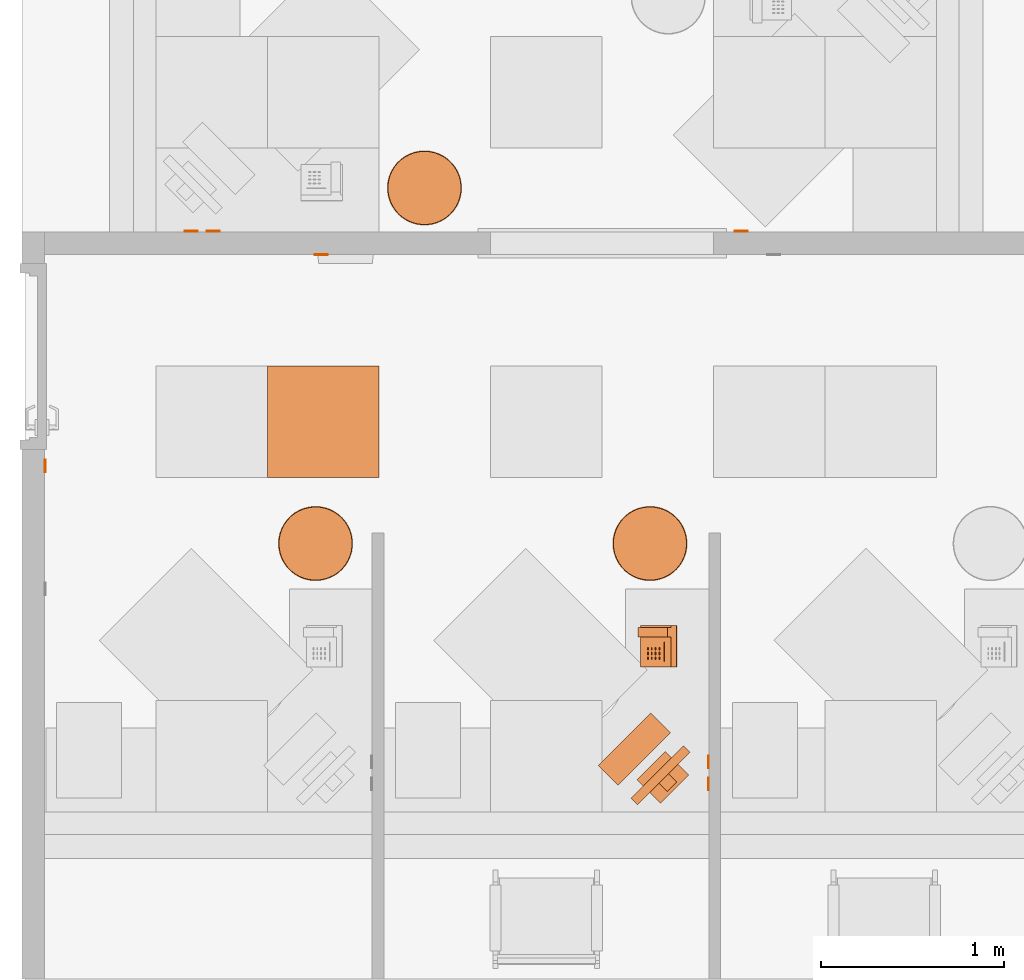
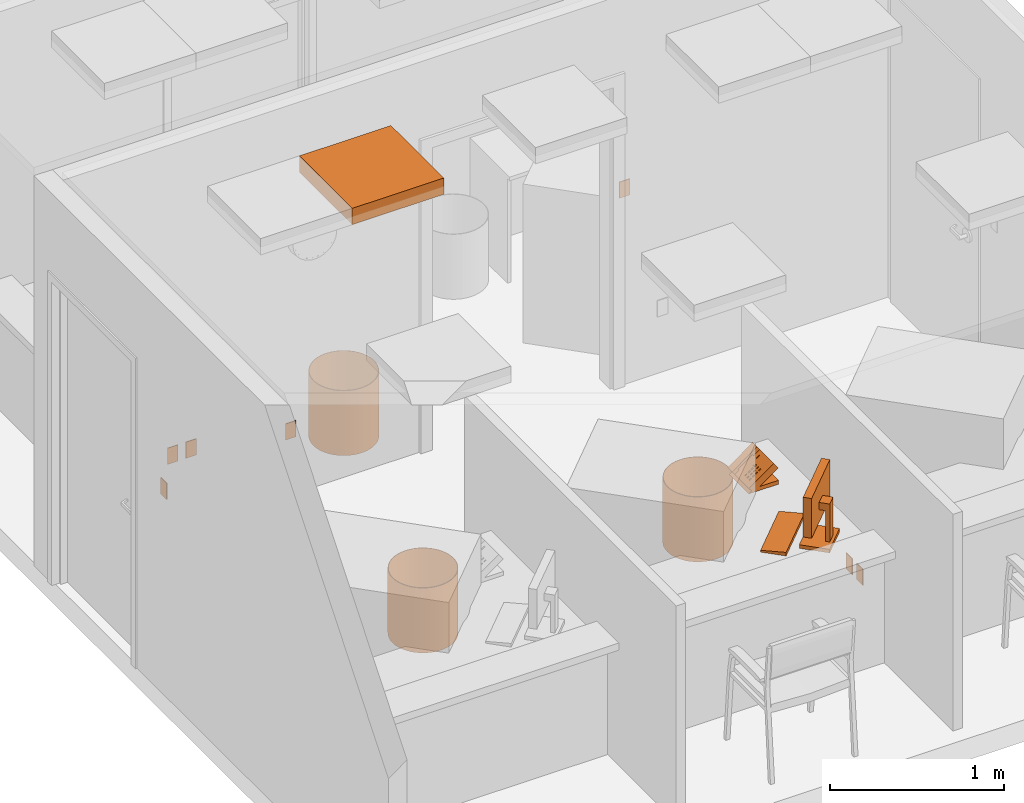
# One storey, part 14 of 20: 13 proxies.
"""IFC2X3 building model written with IfcOpenShell, lengths in feet."""

from ifc_helpers import new_model, entity, si_unit, converted_unit, derived_unit, direction, frame, frame_2d, origin, origin_2d_with_axis, place, context, subcontext, project, spatial, rectangle, circle, hollow_circle, extrude, faceted_brep, source, transform, mapped, type_object, type_shapes, element, save


model = new_model("IFC2X3")

# Units and contexts
model_context = context("Model", 3, precision=0.0001, world=origin(), true_north=direction((6.12303176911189e-17, 1.0)))
body_context = subcontext(model_context, "Body", "Model", "MODEL_VIEW")
ifc_project = project(units=[converted_unit("LENGTHUNIT", "FOOT", entity("IfcRatioMeasure", 0.3048), si_unit("LENGTHUNIT", "METRE"), dimensions=[1, 0, 0, 0, 0, 0, 0]), converted_unit("AREAUNIT", "SQUARE FOOT", entity("IfcRatioMeasure", 0.09290304), si_unit("AREAUNIT", "SQUARE_METRE"), dimensions=[2, 0, 0, 0, 0, 0, 0]), converted_unit("VOLUMEUNIT", "CUBIC FOOT", entity("IfcRatioMeasure", 0.028316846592), si_unit("VOLUMEUNIT", "CUBIC_METRE"), dimensions=[3, 0, 0, 0, 0, 0, 0]), converted_unit("PLANEANGLEUNIT", "DEGREE", entity("IfcRatioMeasure", 0.0174532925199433), si_unit("PLANEANGLEUNIT", "RADIAN"), dimensions=[0, 0, 0, 0, 0, 0, 0]), si_unit("MASSUNIT", "GRAM", prefix="KILO"), derived_unit("MASSDENSITYUNIT", [(si_unit("MASSUNIT", "GRAM", prefix="KILO"), 1), (si_unit("LENGTHUNIT", "METRE"), -3)]), si_unit("TIMEUNIT", "SECOND"), si_unit("FREQUENCYUNIT", "HERTZ"), si_unit("THERMODYNAMICTEMPERATUREUNIT", "DEGREE_CELSIUS"), derived_unit("THERMALTRANSMITTANCEUNIT", [(si_unit("MASSUNIT", "GRAM", prefix="KILO"), 1), (si_unit("THERMODYNAMICTEMPERATUREUNIT", "KELVIN"), -1), (si_unit("TIMEUNIT", "SECOND"), -3)]), derived_unit("VOLUMETRICFLOWRATEUNIT", [(si_unit("LENGTHUNIT", "METRE"), 3), (si_unit("TIMEUNIT", "SECOND"), -1)]), si_unit("ELECTRICCURRENTUNIT", "AMPERE"), si_unit("ELECTRICVOLTAGEUNIT", "VOLT"), si_unit("POWERUNIT", "WATT"), si_unit("FORCEUNIT", "NEWTON"), si_unit("ILLUMINANCEUNIT", "LUX"), si_unit("LUMINOUSFLUXUNIT", "LUMEN"), si_unit("LUMINOUSINTENSITYUNIT", "CANDELA"), derived_unit("USERDEFINED", [(si_unit("MASSUNIT", "GRAM", prefix="KILO"), -1), (si_unit("LENGTHUNIT", "METRE"), -2), (si_unit("TIMEUNIT", "SECOND"), 3), (si_unit("LUMINOUSFLUXUNIT", "LUMEN"), 1)]), derived_unit("LINEARVELOCITYUNIT", [(si_unit("LENGTHUNIT", "METRE"), 1), (si_unit("TIMEUNIT", "SECOND"), -1)]), si_unit("PRESSUREUNIT", "PASCAL"), derived_unit("USERDEFINED", [(si_unit("LENGTHUNIT", "METRE"), -2), (si_unit("MASSUNIT", "GRAM", prefix="KILO"), 1), (si_unit("TIMEUNIT", "SECOND"), -2)])], contexts=[model_context])

# Site, building, storey, space
site_placement = place(None, origin())
site = spatial("IfcSite", under=ifc_project, at=site_placement, Name="Default", CompositionType="ELEMENT")
building_placement = place(site_placement, origin())
building = spatial("IfcBuilding", under=site, at=building_placement, Name="OUTPATIENT / PACT CLINIC (Ch. 265)", CompositionType="ELEMENT")
storey_placement = place(building_placement, origin())
storey = spatial("IfcBuildingStorey", under=building, at=storey_placement, Name="DATUM", CompositionType="ELEMENT", Elevation=0.0)
space_1_placement = place(storey_placement, origin())
space_1 = spatial("IfcSpace", under=storey, at=space_1_placement, Name="RCP03", CompositionType="ELEMENT", InteriorOrExteriorSpace="INTERNAL")

# Proxies
building_element_proxy_type_1 = type_object("IfcBuildingElementProxyType", Name="A1015 Telephone_Desk Multi-Line", PredefinedType="NOTDEFINED")
shared_shape_1 = source(origin(), body_context, "Body", "Brep", [
    faceted_brep([(0.700520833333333, 0.261320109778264, 0.451787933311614), (0.700520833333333, 0.572560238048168, 0.223329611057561), (0.700520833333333, 0.538332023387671, 0.176698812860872), (0.700520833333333, 0.629478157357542, 0.109798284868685), (0.700520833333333, 0.699689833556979, 0.205455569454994), (0.700520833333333, 0.163563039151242, 0.598968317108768), (0.700520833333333, 0.0904130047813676, 0.494499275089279), (0.700520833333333, 0.225161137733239, 0.400147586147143), (0.532645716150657, 0.261320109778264, 0.451787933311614), (0.532645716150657, 0.225161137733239, 0.400147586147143), (0.532645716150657, 0.0904130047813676, 0.494499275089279), (0.532645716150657, 0.163563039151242, 0.598968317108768), (0.532645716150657, 0.699689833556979, 0.205455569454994), (0.532645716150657, 0.629478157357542, 0.109798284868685), (0.532645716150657, 0.538332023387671, 0.176698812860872), (0.532645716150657, 0.572560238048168, 0.223329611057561)], [[[0, 1, 2, 3, 4, 5, 6, 7]], [[8, 9, 10, 11, 12, 13, 14, 15]], [[1, 0, 8, 15]], [[2, 1, 15, 14]], [[3, 2, 14, 13]], [[4, 3, 13, 12]], [[5, 4, 12, 11]], [[6, 5, 11, 10]], [[7, 6, 10, 9]], [[0, 7, 9, 8]]]),
    faceted_brep([(0.297587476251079, 0.457472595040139, 0.295395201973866), (0.344462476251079, 0.457472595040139, 0.295395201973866), (0.344462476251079, 0.49615327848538, 0.268310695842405), (0.297587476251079, 0.49615327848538, 0.268310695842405), (0.297587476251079, 0.442535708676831, 0.274063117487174), (0.297587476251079, 0.481216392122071, 0.246978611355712), (0.344462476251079, 0.481216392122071, 0.246978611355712), (0.344462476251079, 0.442535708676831, 0.274063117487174)], [[[0, 1, 2, 3]], [[4, 5, 6, 7]], [[1, 0, 4, 7]], [[2, 1, 7, 6]], [[3, 2, 6, 5]], [[0, 3, 5, 4]]]),
    faceted_brep([(0.29758747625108, 0.525735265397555, 0.247597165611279), (0.34446247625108, 0.525735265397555, 0.247597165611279), (0.34446247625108, 0.564415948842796, 0.220512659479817), (0.29758747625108, 0.564415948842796, 0.220512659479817), (0.29758747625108, 0.510798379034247, 0.226265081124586), (0.29758747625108, 0.549479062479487, 0.199180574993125), (0.34446247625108, 0.549479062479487, 0.199180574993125), (0.34446247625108, 0.510798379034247, 0.226265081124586)], [[[0, 1, 2, 3]], [[4, 5, 6, 7]], [[1, 0, 4, 7]], [[2, 1, 7, 6]], [[3, 2, 6, 5]], [[0, 3, 5, 4]]]),
    faceted_brep([(0.214254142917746, 0.525735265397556, 0.247597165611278), (0.261129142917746, 0.525735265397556, 0.247597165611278), (0.261129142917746, 0.564415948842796, 0.220512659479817), (0.214254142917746, 0.564415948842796, 0.220512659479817), (0.214254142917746, 0.510798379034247, 0.226265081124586), (0.214254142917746, 0.549479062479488, 0.199180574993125), (0.261129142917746, 0.549479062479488, 0.199180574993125), (0.261129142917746, 0.510798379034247, 0.226265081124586)], [[[0, 1, 2, 3]], [[4, 5, 6, 7]], [[1, 0, 4, 7]], [[2, 1, 7, 6]], [[3, 2, 6, 5]], [[0, 3, 5, 4]]]),
    faceted_brep([(0.130920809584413, 0.525735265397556, 0.247597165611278), (0.177795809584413, 0.525735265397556, 0.247597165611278), (0.177795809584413, 0.564415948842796, 0.220512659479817), (0.130920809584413, 0.564415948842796, 0.220512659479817), (0.130920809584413, 0.510798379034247, 0.226265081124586), (0.130920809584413, 0.549479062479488, 0.199180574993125), (0.177795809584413, 0.549479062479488, 0.199180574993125), (0.177795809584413, 0.510798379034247, 0.226265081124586)], [[[0, 1, 2, 3]], [[4, 5, 6, 7]], [[1, 0, 4, 7]], [[2, 1, 7, 6]], [[3, 2, 6, 5]], [[0, 3, 5, 4]]]),
    faceted_brep([(0.130920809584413, 0.45747259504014, 0.295395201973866), (0.177795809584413, 0.45747259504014, 0.295395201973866), (0.177795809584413, 0.496153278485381, 0.268310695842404), (0.130920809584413, 0.496153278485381, 0.268310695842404), (0.130920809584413, 0.442535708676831, 0.274063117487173), (0.130920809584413, 0.481216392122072, 0.246978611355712), (0.177795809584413, 0.481216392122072, 0.246978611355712), (0.177795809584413, 0.442535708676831, 0.274063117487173)], [[[0, 1, 2, 3]], [[4, 5, 6, 7]], [[1, 0, 4, 7]], [[2, 1, 7, 6]], [[3, 2, 6, 5]], [[0, 3, 5, 4]]]),
    faceted_brep([(0.214254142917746, 0.389209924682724, 0.343193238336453), (0.261129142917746, 0.389209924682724, 0.343193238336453), (0.261129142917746, 0.427890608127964, 0.316108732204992), (0.214254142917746, 0.427890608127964, 0.316108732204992), (0.214254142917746, 0.374273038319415, 0.321861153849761), (0.214254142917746, 0.412953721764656, 0.2947766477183), (0.261129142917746, 0.412953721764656, 0.2947766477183), (0.261129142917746, 0.374273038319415, 0.321861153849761)], [[[0, 1, 2, 3]], [[4, 5, 6, 7]], [[1, 0, 4, 7]], [[2, 1, 7, 6]], [[3, 2, 6, 5]], [[0, 3, 5, 4]]]),
    faceted_brep([(0.130920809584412, 0.389209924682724, 0.343193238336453), (0.177795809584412, 0.389209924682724, 0.343193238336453), (0.177795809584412, 0.427890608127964, 0.316108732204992), (0.130920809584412, 0.427890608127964, 0.316108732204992), (0.130920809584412, 0.374273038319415, 0.321861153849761), (0.130920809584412, 0.412953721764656, 0.2947766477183), (0.177795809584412, 0.412953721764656, 0.2947766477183), (0.177795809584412, 0.374273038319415, 0.321861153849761)], [[[0, 1, 2, 3]], [[4, 5, 6, 7]], [[1, 0, 4, 7]], [[2, 1, 7, 6]], [[3, 2, 6, 5]], [[0, 3, 5, 4]]]),
    faceted_brep([(0.214254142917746, 0.457472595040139, 0.295395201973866), (0.261129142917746, 0.457472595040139, 0.295395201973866), (0.261129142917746, 0.49615327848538, 0.268310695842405), (0.214254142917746, 0.49615327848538, 0.268310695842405), (0.214254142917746, 0.442535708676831, 0.274063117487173), (0.214254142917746, 0.481216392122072, 0.246978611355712), (0.261129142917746, 0.481216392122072, 0.246978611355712), (0.261129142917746, 0.442535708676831, 0.274063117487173)], [[[0, 1, 2, 3]], [[4, 5, 6, 7]], [[1, 0, 4, 7]], [[2, 1, 7, 6]], [[3, 2, 6, 5]], [[0, 3, 5, 4]]]),
    faceted_brep([(0.297587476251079, 0.389209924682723, 0.343193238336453), (0.344462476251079, 0.389209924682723, 0.343193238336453), (0.344462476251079, 0.427890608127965, 0.316108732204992), (0.297587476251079, 0.427890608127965, 0.316108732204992), (0.297587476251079, 0.374273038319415, 0.321861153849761), (0.297587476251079, 0.412953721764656, 0.294776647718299), (0.344462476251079, 0.412953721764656, 0.294776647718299), (0.344462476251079, 0.374273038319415, 0.321861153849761)], [[[0, 1, 2, 3]], [[4, 5, 6, 7]], [[1, 0, 4, 7]], [[2, 1, 7, 6]], [[3, 2, 6, 5]], [[0, 3, 5, 4]]]),
    faceted_brep([(0.130920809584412, 0.320947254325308, 0.39099127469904), (0.177795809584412, 0.320947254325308, 0.39099127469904), (0.177795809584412, 0.359627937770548, 0.363906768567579), (0.130920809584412, 0.359627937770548, 0.363906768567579), (0.130920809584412, 0.306010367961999, 0.369659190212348), (0.130920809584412, 0.34469105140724, 0.342574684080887), (0.177795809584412, 0.34469105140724, 0.342574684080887), (0.177795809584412, 0.306010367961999, 0.369659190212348)], [[[0, 1, 2, 3]], [[4, 5, 6, 7]], [[1, 0, 4, 7]], [[2, 1, 7, 6]], [[3, 2, 6, 5]], [[0, 3, 5, 4]]]),
    faceted_brep([(0.214254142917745, 0.320947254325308, 0.39099127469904), (0.261129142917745, 0.320947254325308, 0.39099127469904), (0.261129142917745, 0.359627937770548, 0.363906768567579), (0.214254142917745, 0.359627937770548, 0.363906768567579), (0.214254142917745, 0.306010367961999, 0.369659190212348), (0.214254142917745, 0.34469105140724, 0.342574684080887), (0.261129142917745, 0.34469105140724, 0.342574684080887), (0.261129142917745, 0.306010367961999, 0.369659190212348)], [[[0, 1, 2, 3]], [[4, 5, 6, 7]], [[1, 0, 4, 7]], [[2, 1, 7, 6]], [[3, 2, 6, 5]], [[0, 3, 5, 4]]]),
    faceted_brep([(0.297587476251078, 0.320947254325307, 0.390991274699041), (0.344462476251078, 0.320947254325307, 0.390991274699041), (0.344462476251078, 0.359627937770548, 0.363906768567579), (0.297587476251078, 0.359627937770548, 0.363906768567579), (0.297587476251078, 0.306010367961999, 0.369659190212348), (0.297587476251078, 0.34469105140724, 0.342574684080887), (0.344462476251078, 0.34469105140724, 0.342574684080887), (0.344462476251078, 0.306010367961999, 0.369659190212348)], [[[0, 1, 2, 3]], [[4, 5, 6, 7]], [[1, 0, 4, 7]], [[2, 1, 7, 6]], [[3, 2, 6, 5]], [[0, 3, 5, 4]]]),
    faceted_brep([(0.739583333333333, 0.584951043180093, 0.0535656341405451), (0.739583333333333, 0.648788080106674, 0.129643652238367), (0.739583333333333, 0.102686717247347, 0.512027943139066), (0.739583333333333, 0.00709064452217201, 0.375502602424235), (0.739583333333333, 0.416666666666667, 0.0887143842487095), (0.739583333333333, 0.0, 0.0887143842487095), (0.739583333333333, 0.0, 0.0), (0.739583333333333, 0.648788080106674, 0.0), (0.0, 0.416666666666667, 0.0887143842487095), (0.0, 0.00709064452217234, 0.375502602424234), (0.0, 0.102686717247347, 0.512027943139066), (0.0, 0.648788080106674, 0.129643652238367), (0.0, 0.584951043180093, 0.0535656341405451), (0.0, 0.648788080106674, 0.0), (0.0, 0.0, 0.0), (0.0, 0.0, 0.0887143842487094), (0.532645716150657, 0.648788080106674, 0.129643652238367), (0.532645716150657, 0.631984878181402, 0.109618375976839), (0.699312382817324, 0.631984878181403, 0.10961837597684), (0.699312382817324, 0.648788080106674, 0.129643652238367), (0.699312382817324, 0.597591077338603, 0.165492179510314), (0.688147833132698, 0.205080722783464, 0.44033088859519), (0.68766856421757, 0.582470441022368, 0.176079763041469), (0.676024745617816, 0.567349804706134, 0.186667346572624), (0.67289677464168, 0.217573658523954, 0.431583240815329), (0.657645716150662, 0.230066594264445, 0.422835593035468), (0.65691415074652, 0.558715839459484, 0.192712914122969), (0.637803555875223, 0.550081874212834, 0.198758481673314), (0.636812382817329, 0.234639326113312, 0.41963373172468), (0.615979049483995, 0.239212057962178, 0.416431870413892), (0.61597904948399, 0.550081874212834, 0.198758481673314), (0.594154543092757, 0.550081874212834, 0.198758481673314), (0.595145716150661, 0.234639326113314, 0.419633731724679), (0.574312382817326, 0.230066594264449, 0.422835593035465), (0.441208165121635, 0.234600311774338, 0.419661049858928), (0.575043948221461, 0.558715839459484, 0.192712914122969), (0.555933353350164, 0.567349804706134, 0.186667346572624), (0.542406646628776, 0.58491555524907, 0.174367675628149), (0.532645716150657, 0.597591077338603, 0.165492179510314), (0.0978645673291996, 0.234600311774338, 0.419661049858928), (0.0978645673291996, 0.166337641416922, 0.467459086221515), (0.532645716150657, 0.102686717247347, 0.512027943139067), (0.441208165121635, 0.166337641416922, 0.467459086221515), (0.532645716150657, 0.170949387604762, 0.46422990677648), (0.538227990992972, 0.188015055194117, 0.452280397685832), (0.543810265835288, 0.205080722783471, 0.440330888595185), (0.559061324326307, 0.21757365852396, 0.431583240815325), (0.693730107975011, 0.188015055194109, 0.452280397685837), (0.699312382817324, 0.170949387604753, 0.464229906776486), (0.699312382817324, 0.102686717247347, 0.512027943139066), (0.699312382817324, 0.0877498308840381, 0.490695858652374), (0.532645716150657, 0.0877498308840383, 0.490695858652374), (0.0978645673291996, 0.151400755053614, 0.446127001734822), (0.441208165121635, 0.151400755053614, 0.446127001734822), (0.441208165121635, 0.219663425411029, 0.398328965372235), (0.0978645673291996, 0.219663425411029, 0.398328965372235), (0.597435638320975, 0.222563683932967, 0.396298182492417), (0.580728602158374, 0.215973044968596, 0.400912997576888), (0.564021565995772, 0.209382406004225, 0.40552781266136), (0.55245993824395, 0.197506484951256, 0.413843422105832), (0.540898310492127, 0.185630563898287, 0.422159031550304), (0.536626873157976, 0.170300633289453, 0.432893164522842), (0.532645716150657, 0.156012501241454, 0.442897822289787), (0.699312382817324, 0.156012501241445, 0.442897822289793), (0.695331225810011, 0.170300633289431, 0.432893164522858), (0.691059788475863, 0.18563056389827, 0.422159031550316), (0.679498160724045, 0.197506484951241, 0.413843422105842), (0.667936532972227, 0.209382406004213, 0.405527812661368), (0.651229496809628, 0.215973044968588, 0.400912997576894), (0.634522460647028, 0.222563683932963, 0.39629818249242), (0.615979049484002, 0.222563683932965, 0.396298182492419), (0.532645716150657, 0.582654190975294, 0.144160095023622), (0.54428953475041, 0.56753355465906, 0.154747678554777), (0.555933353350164, 0.552412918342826, 0.165335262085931), (0.575043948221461, 0.543778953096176, 0.171380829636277), (0.594154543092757, 0.535144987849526, 0.177426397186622), (0.61597904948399, 0.535144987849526, 0.177426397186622), (0.637803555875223, 0.535144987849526, 0.177426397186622), (0.65691415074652, 0.543778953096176, 0.171380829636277), (0.676024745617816, 0.552412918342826, 0.165335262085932), (0.689551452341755, 0.569978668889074, 0.153035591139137), (0.699312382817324, 0.582654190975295, 0.144160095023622)], [[[0, 1, 2, 3, 4, 5, 6, 7]], [[8, 9, 10, 11, 12, 13, 14, 15]], [[0, 7, 13, 12]], [[0, 12, 11, 16, 17, 18, 19, 1]], [[1, 19, 20]], [[21, 1, 20]], [[2, 1, 21]], [[21, 20, 22]], [[21, 22, 23]], [[23, 24, 21]], [[23, 25, 24]], [[25, 23, 26]], [[25, 26, 27]], [[27, 28, 25]], [[27, 29, 28]], [[29, 27, 30]], [[29, 30, 31]], [[31, 32, 29]], [[31, 33, 32]], [[34, 33, 31]], [[34, 31, 35]], [[34, 35, 36]], [[34, 36, 37]], [[34, 37, 38]], [[38, 39, 34]], [[39, 38, 11]], [[38, 16, 11]], [[39, 11, 10]], [[10, 40, 39]], [[10, 41, 40]], [[40, 41, 42]], [[42, 41, 43]], [[42, 43, 44]], [[42, 44, 45]], [[34, 45, 46]], [[42, 45, 34]], [[34, 46, 33]], [[2, 21, 47]], [[2, 47, 48]], [[2, 48, 49]], [[2, 49, 50, 51, 41, 10, 9, 3]], [[4, 3, 9, 8]], [[5, 4, 8, 15]], [[6, 5, 15, 14]], [[7, 6, 14, 13]], [[52, 53, 54, 55]], [[56, 57, 58, 59, 60, 61, 62, 51, 50, 63, 64, 65, 66, 67, 68, 69, 70]], [[17, 71, 72, 73, 74, 75, 76, 77, 78, 79, 80, 81, 18]], [[52, 40, 42, 53]], [[54, 53, 42, 34]], [[54, 34, 39, 55]], [[55, 39, 40, 52]], [[50, 49, 48, 63]], [[18, 81, 20, 19]], [[64, 63, 48]], [[56, 29, 32]], [[33, 57, 32]], [[66, 24, 67]], [[64, 47, 65]], [[21, 65, 47]], [[28, 68, 25]], [[65, 21, 66]], [[68, 28, 69]], [[47, 64, 48]], [[56, 32, 57]], [[45, 60, 59]], [[45, 59, 46]], [[56, 70, 69, 29]], [[33, 58, 57]], [[45, 44, 60]], [[43, 62, 61]], [[33, 46, 58]], [[24, 66, 21]], [[58, 46, 59]], [[44, 43, 61]], [[24, 25, 67]], [[29, 69, 28]], [[68, 67, 25]], [[61, 60, 44]], [[62, 43, 41, 51]], [[17, 16, 38, 71]], [[73, 72, 71, 38, 37, 36]], [[20, 81, 80, 79, 23, 22]], [[36, 35, 31, 75, 74, 73]], [[77, 76, 75, 31, 30, 27]], [[27, 26, 23, 79, 78, 77]]]),
])
type_shapes(building_element_proxy_type_1, [shared_shape_1])
proxy_1_placement = place(space_1_placement, frame((67.6056098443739, -862.322290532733, 2.49999999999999), z_axis=(0.0, 0.0, 1.0), x_axis=(0.0, 1.0, 0.0)))
element("IfcBuildingElementProxy", 1, at=proxy_1_placement, inside=space_1, type_object=building_element_proxy_type_1, Name="A1015 - Telephone, Desk, Multiple Line:A1015 Telephone_Desk Multi-Line", ObjectType="A1015 Telephone_Desk Multi-Line", context=body_context, shape_type="MappedRepresentation", body=[
    mapped(shared_shape_1, transform((0.0, 0.0, 0.0), scale=1.0)),
])
building_element_proxy_type_2 = type_object("IfcBuildingElementProxyType", Name="F2000 - Basket, Wastepaper", PredefinedType="NOTDEFINED")
shared_shape_2 = source(origin(), body_context, "Body", "SweptSolid", [
    extrude(circle(Radius=0.666666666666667, at=frame_2d((0.0, -1.07702971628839e-15), x_axis=(1.0, 0.0))), origin(), (0.0, 0.0, 1.0), 0.0104166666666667),
    extrude(hollow_circle(Radius=0.666666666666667, WallThickness=0.0104166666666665, at=frame_2d((0.0, -1.07702971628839e-15), x_axis=(1.0, 0.0))), frame((0.0, 0.0, 0.0104166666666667)), (0.0, 0.0, 1.0), 1.48958333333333),
])
type_shapes(building_element_proxy_type_2, [shared_shape_2])
for number, where, z_axis, x_axis, name in (
    (2, (67.1234884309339, -860.111353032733, 0.0), (0.0, 0.0, 1.0), (-1.0, 0.0, 0.0), "F2000 - Basket, Wastepaper:F2000 - Basket, Wastepaper"),
    (3, (61.1234884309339, -860.111353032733, 0.0), (0.0, 0.0, 1.0), (-1.0, 0.0, 0.0), "F2000 - Basket, Wastepaper:F2000 - Basket, Wastepaper"),
):
    element("IfcBuildingElementProxy", number, at=place(space_1_placement, frame(where, z_axis=z_axis, x_axis=x_axis)), inside=space_1, type_object=building_element_proxy_type_2, Name=name, ObjectType="F2000 - Basket, Wastepaper", context=body_context, shape_type="MappedRepresentation", body=[
        mapped(shared_shape_2, transform((0.0, 0.0, 0.0), scale=1.0)),
    ])

# Space
space_2_placement = place(storey_placement, origin())
space_2 = spatial("IfcSpace", under=storey, at=space_2_placement, CompositionType="ELEMENT", InteriorOrExteriorSpace="INTERNAL")

# Proxies
proxy_2_placement = place(space_2_placement, frame((63.0775997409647, -853.73213100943, 0.0), z_axis=(0.0, 0.0, 1.0), x_axis=(0.0, 1.0, 0.0)))
element("IfcBuildingElementProxy", 4, at=proxy_2_placement, inside=space_2, type_object=building_element_proxy_type_2, Name="F2000 - Basket, Wastepaper:F2000 - Basket, Wastepaper", ObjectType="F2000 - Basket, Wastepaper", context=body_context, shape_type="MappedRepresentation", body=[
    mapped(shared_shape_2, transform((0.0, 0.0, 0.0), scale=1.0)),
])
building_element_proxy_type_3 = type_object("IfcBuildingElementProxyType", Name="M1801 - Computer with Flat Panel Monitor", PredefinedType="NOTDEFINED")
shared_shape_3 = source(origin(), body_context, "Body", "Brep", [
    faceted_brep([(0.666666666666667, -0.5625, 0.0), (0.666666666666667, -0.0624999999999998, 0.0), (0.666666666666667, -0.0624999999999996, 0.0833333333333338), (0.666666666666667, -0.5625, 0.0416666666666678), (-0.666666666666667, -0.5625, 0.0), (-0.666666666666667, -0.5625, 0.0416666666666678), (-0.666666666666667, -0.0624999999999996, 0.0833333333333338), (-0.666666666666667, -0.0624999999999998, 0.0)], [[[0, 1, 2, 3]], [[4, 5, 6, 7]], [[1, 0, 4, 7]], [[2, 1, 7, 6]], [[3, 2, 6, 5]], [[0, 3, 5, 4]]]),
    faceted_brep([(0.666666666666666, 0.437223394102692, 1.41666666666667), (-0.666666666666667, 0.437223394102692, 1.41666666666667), (-0.666666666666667, 0.271109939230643, 1.41666666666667), (0.666666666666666, 0.271109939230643, 1.41666666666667), (0.666666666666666, 0.437223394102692, 0.500000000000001), (0.666666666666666, 0.271109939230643, 0.500000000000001), (-0.666666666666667, 0.271109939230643, 0.500000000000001), (-0.666666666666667, 0.437223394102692, 0.500000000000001), (-0.625, 0.271109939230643, 1.375), (0.625, 0.271109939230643, 1.375), (0.625, 0.271109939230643, 0.541666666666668), (-0.625, 0.271109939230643, 0.541666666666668), (0.625, 0.286812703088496, 1.375), (-0.625, 0.286812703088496, 1.375), (0.625, 0.286812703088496, 0.541666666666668), (-0.625, 0.286812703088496, 0.541666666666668)], [[[0, 1, 2, 3]], [[4, 5, 6, 7]], [[1, 0, 4, 7]], [[2, 1, 7, 6]], [[3, 2, 6, 5], [8, 9, 10, 11]], [[0, 3, 5, 4]], [[12, 9, 8, 13]], [[14, 15, 11, 10]], [[12, 13, 15, 14]], [[13, 8, 11, 15]], [[9, 12, 14, 10]]]),
    faceted_brep([(0.358011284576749, 0.111770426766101, 0.0833333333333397), (0.358011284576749, 0.111770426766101, 0.0), (0.358011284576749, 0.708333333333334, 0.0), (0.358011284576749, 0.708333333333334, 0.0833333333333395), (-0.358011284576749, 0.708333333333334, 0.0833333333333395), (-0.358011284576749, 0.708333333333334, 0.0), (-0.358011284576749, 0.111770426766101, 0.0), (-0.358011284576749, 0.111770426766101, 0.0833333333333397), (0.12128795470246, 0.645556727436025, 0.104166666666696), (0.12128795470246, 0.645556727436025, 0.0833333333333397), (-0.12128795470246, 0.645556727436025, 0.0833333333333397), (-0.12128795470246, 0.645556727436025, 0.104166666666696), (0.12128795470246, 0.645556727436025, 0.958333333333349), (-0.12128795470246, 0.645556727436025, 0.958333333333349), (0.12128795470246, 0.437223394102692, 0.958333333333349), (-0.12128795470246, 0.437223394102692, 0.958333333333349), (0.12128795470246, 0.437223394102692, 0.791666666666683), (-0.12128795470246, 0.437223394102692, 0.791666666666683), (0.12128795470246, 0.562223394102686, 0.791666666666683), (-0.12128795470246, 0.562223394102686, 0.791666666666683), (0.12128795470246, 0.562223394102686, 0.0833333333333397), (-0.12128795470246, 0.562223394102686, 0.0833333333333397)], [[[0, 1, 2, 3]], [[4, 5, 6, 7]], [[8, 9, 10, 11]], [[12, 8, 11, 13]], [[14, 12, 13, 15]], [[16, 14, 15, 17]], [[18, 16, 17, 19]], [[20, 18, 19, 21]], [[0, 3, 4, 7], [9, 20, 21, 10]], [[1, 0, 7, 6]], [[2, 1, 6, 5]], [[3, 2, 5, 4]], [[20, 9, 8, 12, 14, 16, 18]], [[10, 21, 19, 17, 15, 13, 11]]]),
])
type_shapes(building_element_proxy_type_3, [shared_shape_3])
proxy_3_placement = place(space_1_placement, frame((67.0634999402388, -864.01781695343, 2.49999999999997), z_axis=(0.0, 0.0, 1.0), x_axis=(-0.707106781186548, -0.707106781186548, 0.0)))
element("IfcBuildingElementProxy", 5, at=proxy_3_placement, inside=space_1, type_object=building_element_proxy_type_3, Name="M1801 - Computer with Flat Panel Monitor:M1801 - Computer with Flat Panel Monitor", ObjectType="M1801 - Computer with Flat Panel Monitor", context=body_context, shape_type="MappedRepresentation", body=[
    mapped(shared_shape_3, transform((0.0, 0.0, 0.0), scale=1.0)),
])
building_element_proxy_type_4 = type_object("IfcBuildingElementProxyType", Name="24\" x 24\"", PredefinedType="NOTDEFINED")
shared_shape_4 = source(origin(), body_context, "Body", "SweptSolid", [
    extrude(rectangle(XDim=2.00000000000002, YDim=2.00000000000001, at=origin_2d_with_axis()), frame((0.0, 0.0, 8.0), z_axis=(0.0, 0.0, 1.0), x_axis=(0.0, 1.0, 0.0)), (0.0, 0.0, 1.0), 0.375),
])
type_shapes(building_element_proxy_type_4, [shared_shape_4])
proxy_4_placement = place(space_1_placement, frame((61.2641134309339, -857.924839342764, 1.0)))
element("IfcBuildingElementProxy", 6, at=proxy_4_placement, inside=space_1, type_object=building_element_proxy_type_4, Name="Supply Diffuser:24\" x 24\"", ObjectType="24\" x 24\"", context=body_context, shape_type="MappedRepresentation", body=[
    mapped(shared_shape_4, transform((0.0, 0.0, 0.0), scale=1.0)),
])
building_element_proxy_type_5 = type_object("IfcBuildingElementProxyType", Name="Duplex", PredefinedType="NOTDEFINED")
shared_shape_5 = source(origin(), body_context, "Body", "SweptSolid", [
    extrude(rectangle(XDim=0.0156249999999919, YDim=0.229166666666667, at=origin_2d_with_axis()), frame((0.0, 0.210937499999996, 0.0), z_axis=(0.0, 0.0, 1.0), x_axis=(0.0, 1.0, 0.0)), (0.0, 0.0, 1.0), 0.37500000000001),
])
type_shapes(building_element_proxy_type_5, [shared_shape_5])
proxy_5_placement = place(space_1_placement, frame((61.2276550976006, -854.721714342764, 1.3125), z_axis=(0.0, 0.0, 1.0), x_axis=(-1.0, 0.0, 0.0)))
element("IfcBuildingElementProxy", 7, at=proxy_5_placement, inside=space_1, type_object=building_element_proxy_type_5, Name="Outlet, Duplex, Wall:Duplex", ObjectType="Duplex", context=body_context, shape_type="MappedRepresentation", body=[
    mapped(shared_shape_5, transform((0.0, 0.0, 0.0), scale=1.0)),
])
building_element_proxy_type_6 = type_object("IfcBuildingElementProxyType", Name="Single", PredefinedType="NOTDEFINED")
shared_shape_6 = source(origin(), body_context, "Body", "SweptSolid", [
    extrude(rectangle(XDim=0.0156249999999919, YDim=0.229166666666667, at=frame_2d((0.0, -1.11022302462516e-16), x_axis=(1.0, 0.0))), frame((0.0, 0.210937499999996, 0.0), z_axis=(0.0, 0.0, 1.0), x_axis=(0.0, 1.0, 0.0)), (0.0, 0.0, 1.0), 0.37500000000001),
])
type_shapes(building_element_proxy_type_6, [shared_shape_6])
proxy_6_placement = place(space_1_placement, frame((56.0609884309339, -858.721714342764, 4.0), z_axis=(0.0, 0.0, 1.0), x_axis=(0.0, -1.0, 0.0)))
element("IfcBuildingElementProxy", 8, at=proxy_6_placement, inside=space_1, type_object=building_element_proxy_type_6, Name="Switch, Single:Single", ObjectType="Single", context=body_context, shape_type="MappedRepresentation", body=[
    mapped(shared_shape_6, transform((0.0, 0.0, 0.0), scale=1.0)),
])
proxy_7_placement = place(space_2_placement, frame((68.7589050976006, -854.721714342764, 4.0)))
element("IfcBuildingElementProxy", 9, at=proxy_7_placement, inside=space_2, type_object=building_element_proxy_type_6, Name="Switch, Single:Single", ObjectType="Single", context=body_context, shape_type="MappedRepresentation", body=[
    mapped(shared_shape_6, transform((0.0, 0.0, 0.0), scale=1.0)),
])
building_element_proxy_type_7 = type_object("IfcBuildingElementProxyType", Name="Duplex", PredefinedType="NOTDEFINED")
shared_shape_7 = source(origin(), body_context, "Body", "SweptSolid", [
    extrude(rectangle(XDim=0.229166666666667, YDim=0.0156249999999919, at=origin_2d_with_axis()), frame((0.0, -0.111979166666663, 0.0), z_axis=(0.0, 0.0, 1.0), x_axis=(-1.0, 0.0, 0.0)), (0.0, 0.0, 1.0), 0.37500000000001),
])
type_shapes(building_element_proxy_type_7, [shared_shape_7])
proxy_8_placement = place(space_1_placement, frame((68.2849467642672, -864.424839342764, 1.3125), z_axis=(0.0, 0.0, 1.0), x_axis=(0.0, -1.0, 0.0)))
element("IfcBuildingElementProxy", 10, at=proxy_8_placement, inside=space_1, type_object=building_element_proxy_type_7, Name="Outlet, Duplex, Wall:Duplex", ObjectType="Duplex", context=body_context, shape_type="MappedRepresentation", body=[
    mapped(shared_shape_7, transform((0.0, 0.0, 0.0), scale=1.0)),
])
building_element_proxy_type_8 = type_object("IfcBuildingElementProxyType", Name="Telephone/Data", PredefinedType="NOTDEFINED")
shared_shape_8 = source(origin(), body_context, "Body", "SweptSolid", [
    extrude(rectangle(XDim=0.229166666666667, YDim=0.0156249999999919, at=origin_2d_with_axis()), frame((0.0, -0.111979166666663, 0.0), z_axis=(0.0, 0.0, 1.0), x_axis=(-1.0, 0.0, 0.0)), (0.0, 0.0, 1.0), 0.375),
])
type_shapes(building_element_proxy_type_8, [shared_shape_8])
proxy_9_placement = place(space_1_placement, frame((68.2849467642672, -864.02900600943, 1.3125), z_axis=(0.0, 0.0, 1.0), x_axis=(0.0, -1.0, 0.0)))
element("IfcBuildingElementProxy", 11, at=proxy_9_placement, inside=space_1, type_object=building_element_proxy_type_8, Name="Outlet, Communications:Telephone/Data", ObjectType="Telephone/Data", context=body_context, shape_type="MappedRepresentation", body=[
    mapped(shared_shape_8, transform((0.0, 0.0, 0.0), scale=1.0)),
])
building_element_proxy_type_9 = type_object("IfcBuildingElementProxyType", Name="Duplex", PredefinedType="NOTDEFINED")
shared_shape_9 = source(origin(), body_context, "Body", "SweptSolid", [
    extrude(rectangle(XDim=0.229166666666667, YDim=0.0156249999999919, at=origin_2d_with_axis()), frame((0.0, -0.210937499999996, 0.0), z_axis=(0.0, 0.0, 1.0), x_axis=(-1.0, 0.0, 0.0)), (0.0, 0.0, 1.0), 0.37500000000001),
])
type_shapes(building_element_proxy_type_9, [shared_shape_9])
proxy_10_placement = place(space_2_placement, frame((58.8943217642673, -854.721714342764, 1.3125), z_axis=(0.0, 0.0, 1.0), x_axis=(-1.0, 0.0, 0.0)))
element("IfcBuildingElementProxy", 12, at=proxy_10_placement, inside=space_2, type_object=building_element_proxy_type_9, Name="Outlet, Duplex, Wall:Duplex", ObjectType="Duplex", context=body_context, shape_type="MappedRepresentation", body=[
    mapped(shared_shape_9, transform((0.0, 0.0, 0.0), scale=1.0)),
])
building_element_proxy_type_10 = type_object("IfcBuildingElementProxyType", Name="Telephone/Data", PredefinedType="NOTDEFINED")
shared_shape_10 = source(origin(), body_context, "Body", "SweptSolid", [
    extrude(rectangle(XDim=0.229166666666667, YDim=0.0156249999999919, at=origin_2d_with_axis()), frame((0.0, -0.210937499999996, 0.0), z_axis=(0.0, 0.0, 1.0), x_axis=(-1.0, 0.0, 0.0)), (0.0, 0.0, 1.0), 0.375),
])
type_shapes(building_element_proxy_type_10, [shared_shape_10])
proxy_11_placement = place(space_2_placement, frame((59.2901550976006, -854.721714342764, 1.3125), z_axis=(0.0, 0.0, 1.0), x_axis=(-1.0, 0.0, 0.0)))
element("IfcBuildingElementProxy", 13, at=proxy_11_placement, inside=space_2, type_object=building_element_proxy_type_10, Name="Outlet, Communications:Telephone/Data", ObjectType="Telephone/Data", context=body_context, shape_type="MappedRepresentation", body=[
    mapped(shared_shape_10, transform((0.0, 0.0, 0.0), scale=1.0)),
])

save(model, "model.ifc")
